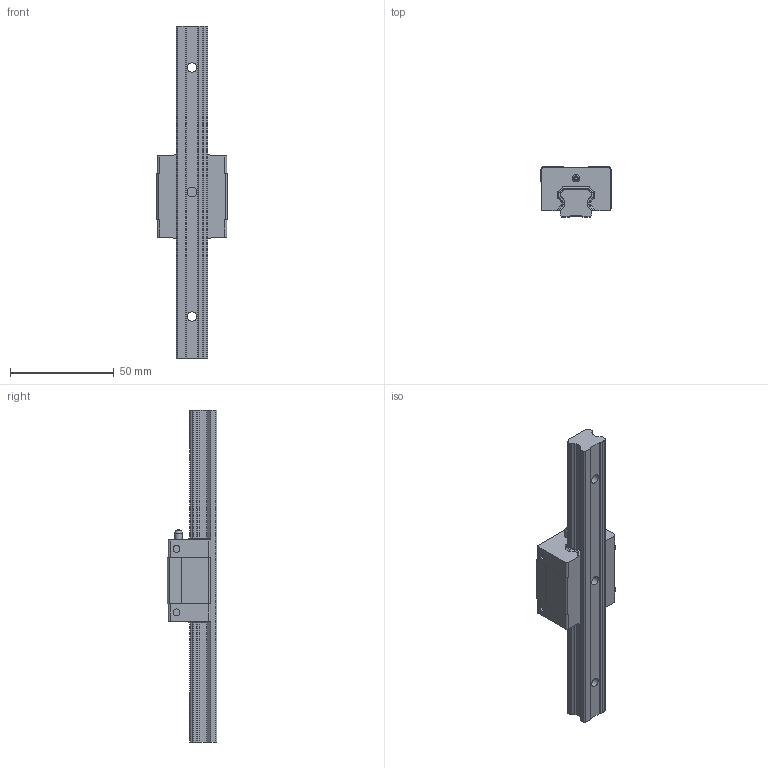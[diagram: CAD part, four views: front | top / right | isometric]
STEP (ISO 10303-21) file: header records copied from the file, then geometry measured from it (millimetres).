
FILE_DESCRIPTION((''),'2;1');
FILE_NAME('D:\製品 (図面)\カタログ用3D\変換ファイル\OZAK_3D-CAD(STEP形式)\Part2.-Linear Guides_ﾘﾆｱｶﾞｲﾄﾞ\07_Eco Guides_ｴｺｶﾞｲﾄﾞ\EGS-S\EGS15S.stp','2010-12-22T11:17:29',('Tsuchiya'),(''),'Autodesk Inventor 10','Autodesk Inventor 10','');
FILE_SCHEMA(('AUTOMOTIVE_DESIGN { 1 0 10303 214 1 1 1 1 }'));
Length unit declared in the file: millimetre
Products named in the file (3): EGS15S; EGS15S1; EGS15S2
Assembly tree (2 placements, depth 2):
  EGS15S
    EGS15S1
    EGS15S2
Bounding box: 34 x 24 x 160 mm (x, y, z)
Volume: 47987 mm3; surface area: 16871.3 mm2
Topology: 2 solids, 3 shells, 182 faces, 480 edges, 316 vertices
Faces by surface type: plane 105, cylinder 51, cone 24, sphere 2
Full cylindrical faces by diameter (mm): 3 x1, 3.3 x8, 3.5 x1, 4 x2, 4.5 x3, 7.5 x3
Entity records: 5607 total; most frequent: CARTESIAN_POINT 1003, DIRECTION 967, ORIENTED_EDGE 908, EDGE_CURVE 454, AXIS2_PLACEMENT_3D 342, VERTEX_POINT 314, VECTOR 283, LINE 283
